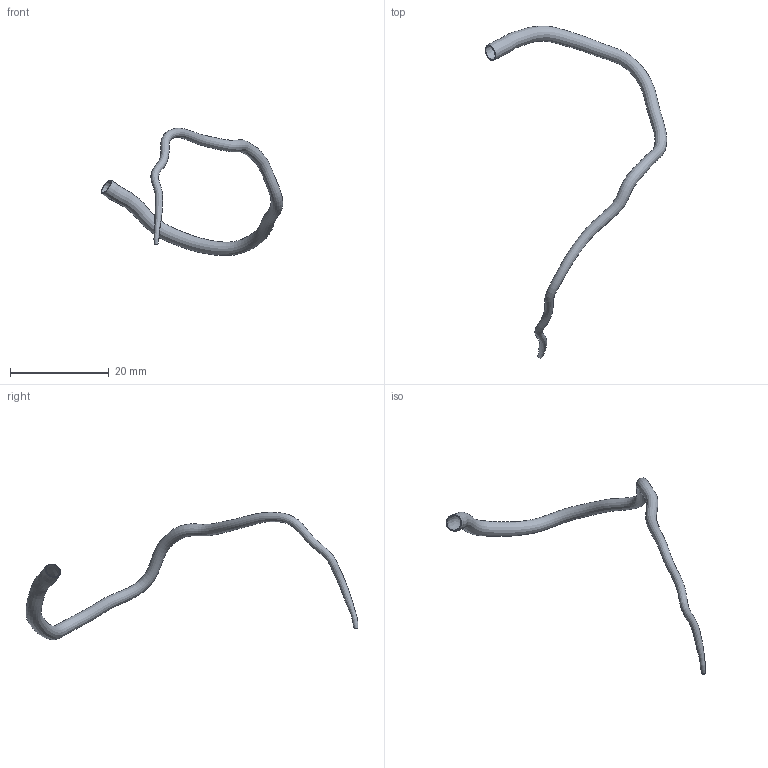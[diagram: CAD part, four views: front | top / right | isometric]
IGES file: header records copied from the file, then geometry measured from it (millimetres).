
Global section: file name: C:\Documents and Settings\Administrator\Desktop\FDA-Pig\Domestic RCA\Pig_000003\rca.seg.es.igs; native system: Rhinoceros ( May 19 2006 ); preprocessor: Trout Lake IGES 012 May 19 2006; date: 111205.184856; units: centimetre
Bounding box: 36.85 x 67.38 x 25.88 mm (x, y, z)
Surface area: 1742 mm2 (no closed solid volume)
Topology: 0 solids, 0 shells, 4 faces, 14 edges, 10 vertices
Faces by surface type: bspline 4
